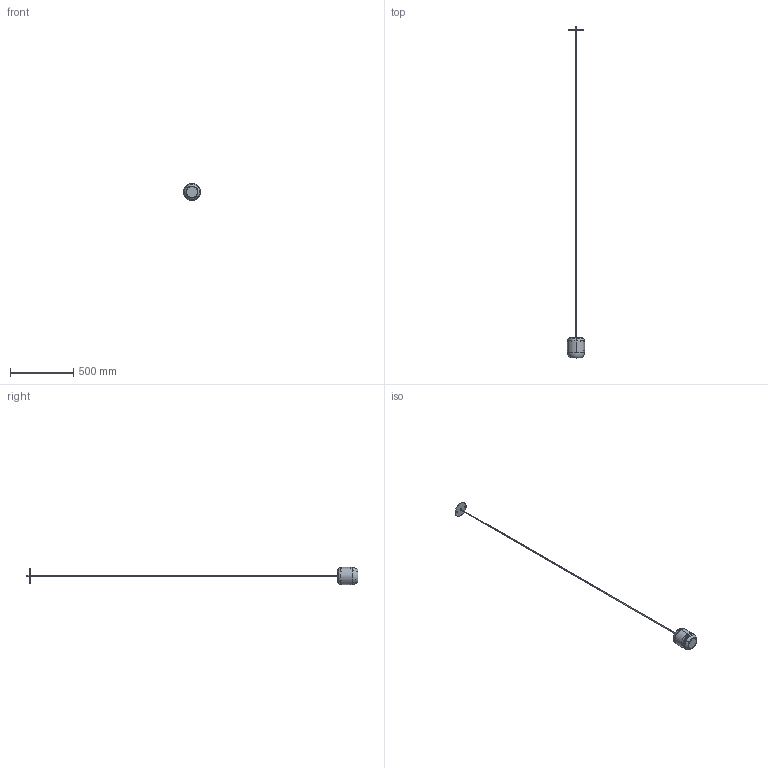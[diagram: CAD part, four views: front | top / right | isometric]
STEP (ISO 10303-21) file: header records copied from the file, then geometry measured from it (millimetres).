
FILE_DESCRIPTION (( 'STEP AP203' ), '1' );
FILE_NAME ('USURBANPXXXXLCC-PER 3D.STEP', '2026-07-07T16:31:11', ( '' ), ( '' ), 'SwSTEP 2.0', 'SolidWorks 2026', '' );
FILE_SCHEMA (( 'CONFIG_CONTROL_DESIGN' ));
Length unit declared in the file: millimetre
Products named in the file (13): CAVO ELETTRICO+RIV TESSUTO; URBAN-PL1-05-V2; PL WRAP-2; USURBANPXXXXLCC-PENDENTE USA; TAPPO COPRIVITE ADESIVO BIANCO RAL 9016 RAGGRIZZATO OPACO; URBAN-PL1-02-V1; ASSIEME CUPOLA PER PL-SP URBAN; WSCM2C0051-0100-01; WSCM2A0032-0700-00; URBAN-PL1-04-V2; WSASS-000000038-00; URBAN-SP1-01-V2; USURBANPXXXXLCC-PER 3D
Assembly tree (13 placements, depth 4):
  USURBANPXXXXLCC-PER 3D
    USURBANPXXXXLCC-PENDENTE USA
      URBAN-SP1-01-V2
      URBAN-PL1-05-V2
      URBAN-PL1-04-V2
      ASSIEME CUPOLA PER PL-SP URBAN
        URBAN-PL1-02-V1
        PL WRAP-2
      CAVO ELETTRICO+RIV TESSUTO
    WSASS-000000038-00
      WSCM2C0051-0100-01
      WSCM2A0032-0700-00
      TAPPO COPRIVITE ADESIVO BIANCO RAL 9016 RAGGRIZZATO OPACO  x2
Bounding box: 135 x 2616.22 x 135 mm (x, y, z)
Volume: 512580.1 mm3; surface area: 299151.7 mm2
Topology: 10 solids, 10 shells, 203 faces, 418 edges, 248 vertices
Faces by surface type: cylinder 72, cone 62, torus 36, plane 33
Entity records: 6813 total; most frequent: DIRECTION 1128, CARTESIAN_POINT 874, ORIENTED_EDGE 824, AXIS2_PLACEMENT_3D 498, EDGE_CURVE 412, CIRCLE 280, EDGE_LOOP 244, VERTEX_POINT 244
